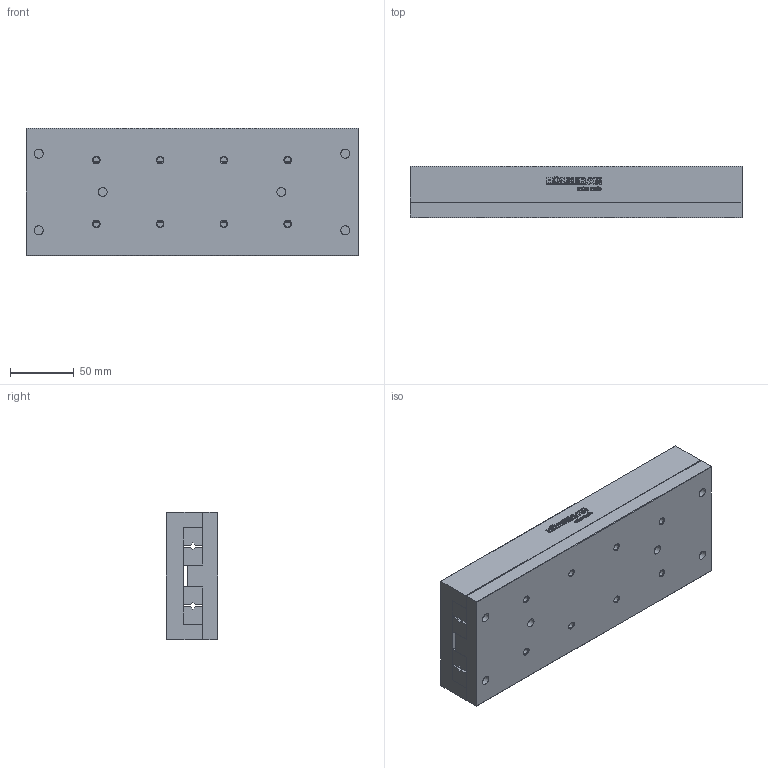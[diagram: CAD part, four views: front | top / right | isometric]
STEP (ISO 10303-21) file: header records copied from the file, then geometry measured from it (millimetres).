
FILE_DESCRIPTION(/* description */ ('STEP AP214'),/* implementation_level */ '2;1');
FILE_NAME(/* name */ 'NKL 6-260(0)',/* time_stamp */ '2025-04-24T11:41:20+02:00',/* author */ ('License CC BY-ND 4.0'),/* organization */ ('CADENAS'),/* preprocessor_version */ 'ST-DEVELOPER v19.3',/* originating_system */ 'PARTsolutions',/* authorisation */ ' ');
FILE_SCHEMA (('AUTOMOTIVE_DESIGN {1 0 10303 214 3 1 1}'));
Length unit declared in the file: millimetre
Products named in the file (3): NKL 6-260(0); NKL 6-260_1; NKL 6-260_2
Assembly tree (2 placements, depth 2):
  NKL 6-260(0)
    NKL 6-260_1
    NKL 6-260_2
Bounding box: 260 x 40 x 100 mm (x, y, z)
Volume: 991526.3 mm3; surface area: 184687.4 mm2
Topology: 2 solids, 2 shells, 643 faces, 1788 edges, 1164 vertices
Faces by surface type: cylinder 320, plane 291, cone 32
Full cylindrical faces by diameter (mm): 4.917 x16, 7 x6, 15 x6
Entity records: 20397 total; most frequent: DIRECTION 3692, CARTESIAN_POINT 3498, ORIENTED_EDGE 3416, EDGE_CURVE 1708, AXIS2_PLACEMENT_3D 1338, VERTEX_POINT 1144, LINE 1016, VECTOR 1016
